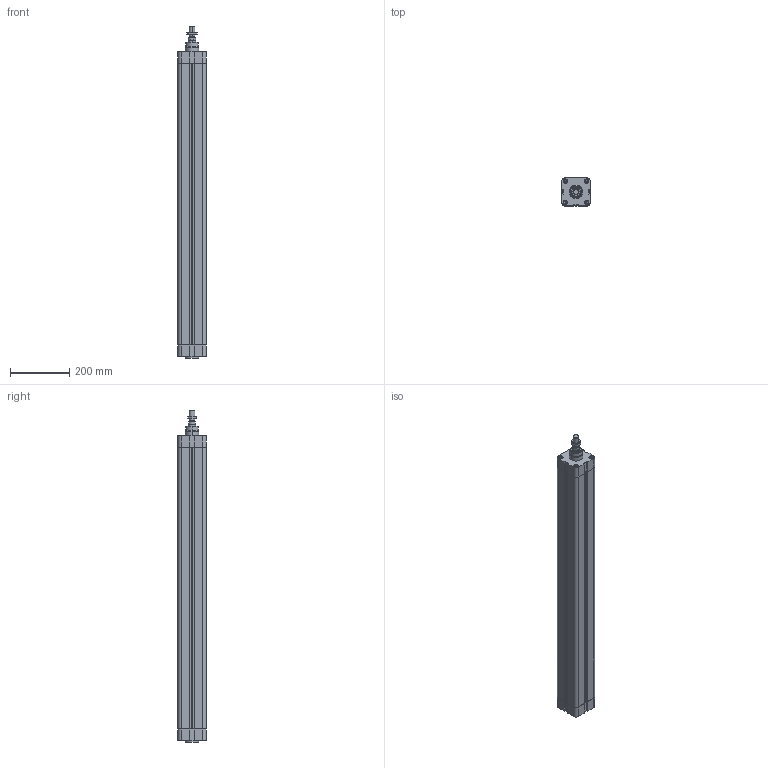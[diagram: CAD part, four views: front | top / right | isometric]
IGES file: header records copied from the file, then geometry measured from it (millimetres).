
Global section: file name: No Iges File Name specified; native system: Autodesk Inventor 2010; preprocessor: AutoDesk Inventor Iges Exporter R2010; author: rivolro1; date: 20090707.103522; units: millimetre
Bounding box: 95.5 x 95.5 x 1118 mm (x, y, z)
Volume: 5053554.8 mm3; surface area: 846299.8 mm2
Topology: 5 solids, 5 shells, 290 faces, 694 edges, 440 vertices
Faces by surface type: plane 120, bspline 74, cylinder 40, revolution 34, cone 20, torus 2
